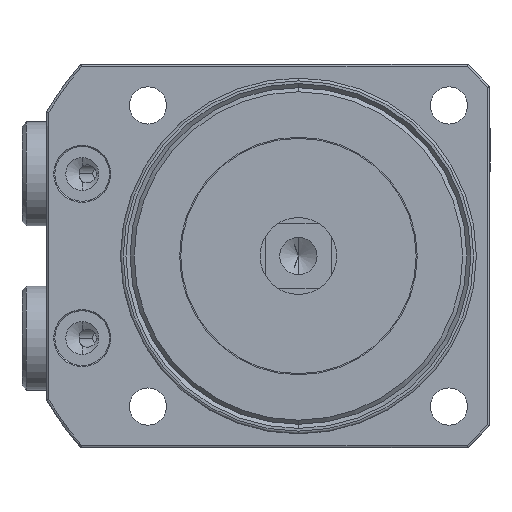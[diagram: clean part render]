
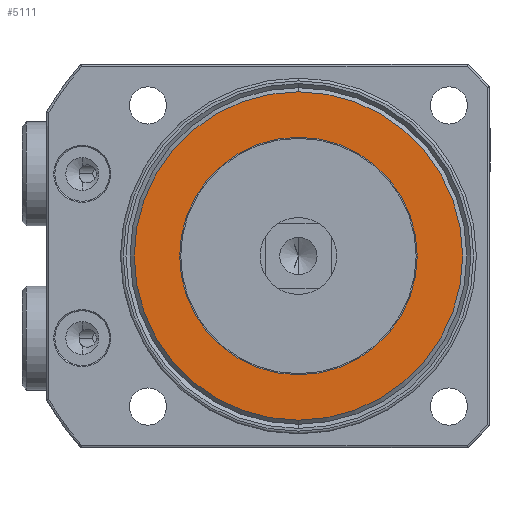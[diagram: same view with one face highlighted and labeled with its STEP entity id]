
A CAD part, front view. The second image highlights one B-rep face of the part: STEP entity #5111.
In plain terms, the highlighted planar face has unit normal (0, -1, 0) as drawn and (1, 0, 0) by its records, which use the part's own axes.
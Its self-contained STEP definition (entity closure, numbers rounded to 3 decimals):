
#103 = CIRCLE ( 'NONE', #3721, 30. ) ;
#224 = DIRECTION ( 'NONE',  ( -1., 0., 0. ) ) ;
#403 = CARTESIAN_POINT ( 'NONE',  ( 58., 0., 30. ) ) ;
#516 = AXIS2_PLACEMENT_3D ( 'NONE', #3990, #224, #4636 ) ;
#607 = PLANE ( 'NONE',  #5388 ) ;
#1081 = AXIS2_PLACEMENT_3D ( 'NONE', #6523, #2764, #7159 ) ;
#1235 = DIRECTION ( 'NONE',  ( 0., 0., -1. ) ) ;
#1530 = VERTEX_POINT ( 'NONE', #403 ) ;
#1682 = DIRECTION ( 'NONE',  ( -1., 0., 0. ) ) ;
#1756 = CIRCLE ( 'NONE', #516, 30. ) ;
#2074 = ORIENTED_EDGE ( 'NONE', *, *, #5449, .T. ) ;
#2478 = CARTESIAN_POINT ( 'NONE',  ( 58., 21.7, 0. ) ) ;
#2594 = VERTEX_POINT ( 'NONE', #4279 ) ;
#2649 = VERTEX_POINT ( 'NONE', #4963 ) ;
#2764 = DIRECTION ( 'NONE',  ( -1., 0., 0. ) ) ;
#2820 = ORIENTED_EDGE ( 'NONE', *, *, #4971, .F. ) ;
#3056 = FACE_OUTER_BOUND ( 'NONE', #5786, .T. ) ;
#3474 = CARTESIAN_POINT ( 'NONE',  ( 58., 0., 0. ) ) ;
#3721 = AXIS2_PLACEMENT_3D ( 'NONE', #5431, #1682, #6061 ) ;
#3835 = CIRCLE ( 'NONE', #7764, 21.7 ) ;
#3990 = CARTESIAN_POINT ( 'NONE',  ( 58., 0., 0. ) ) ;
#4001 = ORIENTED_EDGE ( 'NONE', *, *, #6952, .F. ) ;
#4117 = DIRECTION ( 'NONE',  ( 0., 0., 1. ) ) ;
#4187 = EDGE_CURVE ( 'NONE', #2594, #6195, #6746, .T. ) ;
#4279 = CARTESIAN_POINT ( 'NONE',  ( 58., 0., 21.7 ) ) ;
#4574 = CARTESIAN_POINT ( 'NONE',  ( 58., 0., -21.7 ) ) ;
#4636 = DIRECTION ( 'NONE',  ( 0., 0., 1. ) ) ;
#4963 = CARTESIAN_POINT ( 'NONE',  ( 58., 0., -30. ) ) ;
#4971 = EDGE_CURVE ( 'NONE', #2649, #1530, #103, .T. ) ;
#5000 = DIRECTION ( 'NONE',  ( 1., 0., 0. ) ) ;
#5111 = ADVANCED_FACE ( 'NONE', ( #7854, #3056 ), #607, .T. ) ;
#5388 = AXIS2_PLACEMENT_3D ( 'NONE', #2478, #5000, #1235 ) ;
#5431 = CARTESIAN_POINT ( 'NONE',  ( 58., 0., 0. ) ) ;
#5449 = EDGE_CURVE ( 'NONE', #6195, #2594, #3835, .T. ) ;
#5786 = EDGE_LOOP ( 'NONE', ( #4001, #2820 ) ) ;
#6061 = DIRECTION ( 'NONE',  ( 0., 0., 1. ) ) ;
#6195 = VERTEX_POINT ( 'NONE', #4574 ) ;
#6523 = CARTESIAN_POINT ( 'NONE',  ( 58., 0., 0. ) ) ;
#6746 = CIRCLE ( 'NONE', #1081, 21.7 ) ;
#6952 = EDGE_CURVE ( 'NONE', #1530, #2649, #1756, .T. ) ;
#7135 = EDGE_LOOP ( 'NONE', ( #7728, #2074 ) ) ;
#7159 = DIRECTION ( 'NONE',  ( 0., 0., 1. ) ) ;
#7728 = ORIENTED_EDGE ( 'NONE', *, *, #4187, .T. ) ;
#7764 = AXIS2_PLACEMENT_3D ( 'NONE', #3474, #7860, #4117 ) ;
#7854 = FACE_BOUND ( 'NONE', #7135, .T. ) ;
#7860 = DIRECTION ( 'NONE',  ( -1., 0., 0. ) ) ;
